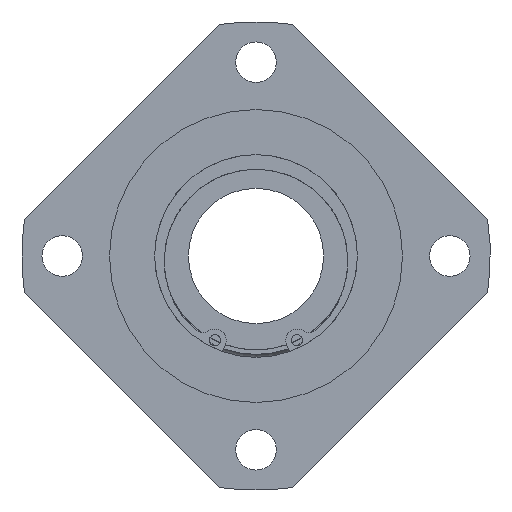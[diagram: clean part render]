
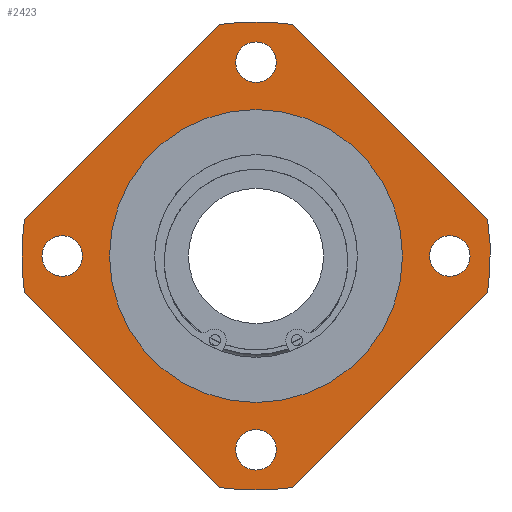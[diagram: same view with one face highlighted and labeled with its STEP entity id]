
A CAD part, left-side view. The second image highlights one B-rep face of the part: STEP entity #2423.
In plain terms, the highlighted planar face has unit normal (-1, 0, 0).
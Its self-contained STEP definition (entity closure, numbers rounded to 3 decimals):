
#2006=CARTESIAN_POINT('',(12.,43.0,-4.5));
#2007=VERTEX_POINT('',#2006);
#2008=CARTESIAN_POINT('',(12.,43.0,0.));
#2009=DIRECTION('',(1.0,0.0,0.0));
#2010=DIRECTION('',(0.0,0.0,-1.0));
#2011=AXIS2_PLACEMENT_3D('',#2008,#2009,#2010);
#2012=CIRCLE('',#2011,4.5);
#2013=EDGE_CURVE('',#2007,#2007,#2012,.T.);
#2034=CARTESIAN_POINT('',(12.,-4.5,-43.0));
#2035=VERTEX_POINT('',#2034);
#2036=CARTESIAN_POINT('',(12.,0.,-43.0));
#2037=DIRECTION('',(1.0,0.0,0.0));
#2038=DIRECTION('',(0.0,-1.0,0.0));
#2039=AXIS2_PLACEMENT_3D('',#2036,#2037,#2038);
#2040=CIRCLE('',#2039,4.5);
#2041=EDGE_CURVE('',#2035,#2035,#2040,.T.);
#2062=CARTESIAN_POINT('',(12.,-43.0,4.5));
#2063=VERTEX_POINT('',#2062);
#2064=CARTESIAN_POINT('',(12.,-43.0,0.));
#2065=DIRECTION('',(1.0,0.0,0.0));
#2066=DIRECTION('',(0.0,0.0,1.0));
#2067=AXIS2_PLACEMENT_3D('',#2064,#2065,#2066);
#2068=CIRCLE('',#2067,4.5);
#2069=EDGE_CURVE('',#2063,#2063,#2068,.T.);
#2090=CARTESIAN_POINT('',(12.,4.5,43.0));
#2091=VERTEX_POINT('',#2090);
#2092=CARTESIAN_POINT('',(12.,0.,43.0));
#2093=DIRECTION('',(1.0,0.0,0.0));
#2094=DIRECTION('',(0.0,1.0,0.0));
#2095=AXIS2_PLACEMENT_3D('',#2092,#2093,#2094);
#2096=CIRCLE('',#2095,4.5);
#2097=EDGE_CURVE('',#2091,#2091,#2096,.T.);
#2117=CARTESIAN_POINT('',(12.,-8.019,51.378));
#2118=VERTEX_POINT('',#2117);
#2125=CARTESIAN_POINT('',(12.,-51.378,8.019));
#2126=VERTEX_POINT('',#2125);
#2127=CARTESIAN_POINT('',(12.,-51.378,8.019));
#2128=DIRECTION('',(0.0,0.707,0.707));
#2129=VECTOR('',#2128,61.319);
#2130=LINE('',#2127,#2129);
#2131=EDGE_CURVE('',#2126,#2118,#2130,.T.);
#2157=CARTESIAN_POINT('',(12.,8.019,-51.378));
#2158=VERTEX_POINT('',#2157);
#2165=CARTESIAN_POINT('',(12.,51.378,-8.019));
#2166=VERTEX_POINT('',#2165);
#2167=CARTESIAN_POINT('',(12.,51.378,-8.019));
#2168=DIRECTION('',(0.0,-0.707,-0.707));
#2169=VECTOR('',#2168,61.319);
#2170=LINE('',#2167,#2169);
#2171=EDGE_CURVE('',#2166,#2158,#2170,.T.);
#2197=CARTESIAN_POINT('',(12.,-51.378,-8.019));
#2198=VERTEX_POINT('',#2197);
#2205=CARTESIAN_POINT('',(12.,-8.019,-51.378));
#2206=VERTEX_POINT('',#2205);
#2207=CARTESIAN_POINT('',(12.,-8.019,-51.378));
#2208=DIRECTION('',(0.0,-0.707,0.707));
#2209=VECTOR('',#2208,61.319);
#2210=LINE('',#2207,#2209);
#2211=EDGE_CURVE('',#2206,#2198,#2210,.T.);
#2237=CARTESIAN_POINT('',(12.,51.378,8.019));
#2238=VERTEX_POINT('',#2237);
#2245=CARTESIAN_POINT('',(12.,8.019,51.378));
#2246=VERTEX_POINT('',#2245);
#2247=CARTESIAN_POINT('',(12.,8.019,51.378));
#2248=DIRECTION('',(0.0,0.707,-0.707));
#2249=VECTOR('',#2248,61.319);
#2250=LINE('',#2247,#2249);
#2251=EDGE_CURVE('',#2246,#2238,#2250,.T.);
#2331=CARTESIAN_POINT('',(12.,0.0,0.0));
#2332=DIRECTION('',(-1.0,0.0,0.0));
#2333=DIRECTION('',(0.0,0.0,1.0));
#2334=AXIS2_PLACEMENT_3D('',#2331,#2332,#2333);
#2335=CIRCLE('',#2334,52.);
#2336=EDGE_CURVE('',#2238,#2166,#2335,.T.);
#2351=CARTESIAN_POINT('',(12.,0.0,0.0));
#2352=DIRECTION('',(-1.0,0.0,0.0));
#2353=DIRECTION('',(0.0,0.0,1.0));
#2354=AXIS2_PLACEMENT_3D('',#2351,#2352,#2353);
#2355=CIRCLE('',#2354,52.);
#2356=EDGE_CURVE('',#2158,#2206,#2355,.T.);
#2367=CARTESIAN_POINT('',(12.,0.0,0.0));
#2368=DIRECTION('',(-1.0,0.0,0.0));
#2369=DIRECTION('',(0.0,0.0,1.0));
#2370=AXIS2_PLACEMENT_3D('',#2367,#2368,#2369);
#2371=CIRCLE('',#2370,52.);
#2372=EDGE_CURVE('',#2198,#2126,#2371,.T.);
#2379=CARTESIAN_POINT('',(12.,0.0,42.25));
#2380=DIRECTION('',(-1.0,0.0,0.0));
#2381=DIRECTION('',(0.0,0.0,1.0));
#2382=AXIS2_PLACEMENT_3D('',#2379,#2380,#2381);
#2383=PLANE('',#2382);
#2384=ORIENTED_EDGE('',*,*,#2131,.T.);
#2385=CARTESIAN_POINT('',(12.,0.0,0.0));
#2386=DIRECTION('',(-1.0,0.0,0.0));
#2387=DIRECTION('',(0.0,0.0,1.0));
#2388=AXIS2_PLACEMENT_3D('',#2385,#2386,#2387);
#2389=CIRCLE('',#2388,52.);
#2390=EDGE_CURVE('',#2118,#2246,#2389,.T.);
#2391=ORIENTED_EDGE('',*,*,#2390,.T.);
#2392=ORIENTED_EDGE('',*,*,#2251,.T.);
#2393=ORIENTED_EDGE('',*,*,#2336,.T.);
#2394=ORIENTED_EDGE('',*,*,#2171,.T.);
#2395=ORIENTED_EDGE('',*,*,#2356,.T.);
#2396=ORIENTED_EDGE('',*,*,#2211,.T.);
#2397=ORIENTED_EDGE('',*,*,#2372,.T.);
#2398=EDGE_LOOP('',(#2384,#2391,#2392,#2393,#2394,#2395,#2396,#2397));
#2399=FACE_OUTER_BOUND('',#2398,.T.);
#2400=ORIENTED_EDGE('',*,*,#2013,.T.);
#2401=EDGE_LOOP('',(#2400));
#2402=FACE_BOUND('',#2401,.T.);
#2403=ORIENTED_EDGE('',*,*,#2041,.T.);
#2404=EDGE_LOOP('',(#2403));
#2405=FACE_BOUND('',#2404,.T.);
#2406=ORIENTED_EDGE('',*,*,#2069,.T.);
#2407=EDGE_LOOP('',(#2406));
#2408=FACE_BOUND('',#2407,.T.);
#2409=ORIENTED_EDGE('',*,*,#2097,.T.);
#2410=EDGE_LOOP('',(#2409));
#2411=FACE_BOUND('',#2410,.T.);
#2412=CARTESIAN_POINT('',(12.,0.0,32.5));
#2413=VERTEX_POINT('',#2412);
#2414=CARTESIAN_POINT('',(12.,0.0,0.0));
#2415=DIRECTION('',(-1.0,0.0,0.0));
#2416=DIRECTION('',(0.0,0.0,1.0));
#2417=AXIS2_PLACEMENT_3D('',#2414,#2415,#2416);
#2418=CIRCLE('',#2417,32.5);
#2419=EDGE_CURVE('',#2413,#2413,#2418,.T.);
#2420=ORIENTED_EDGE('',*,*,#2419,.F.);
#2421=EDGE_LOOP('',(#2420));
#2422=FACE_BOUND('',#2421,.T.);
#2423=ADVANCED_FACE('',(#2399,#2402,#2405,#2408,#2411,#2422),#2383,.T.);
